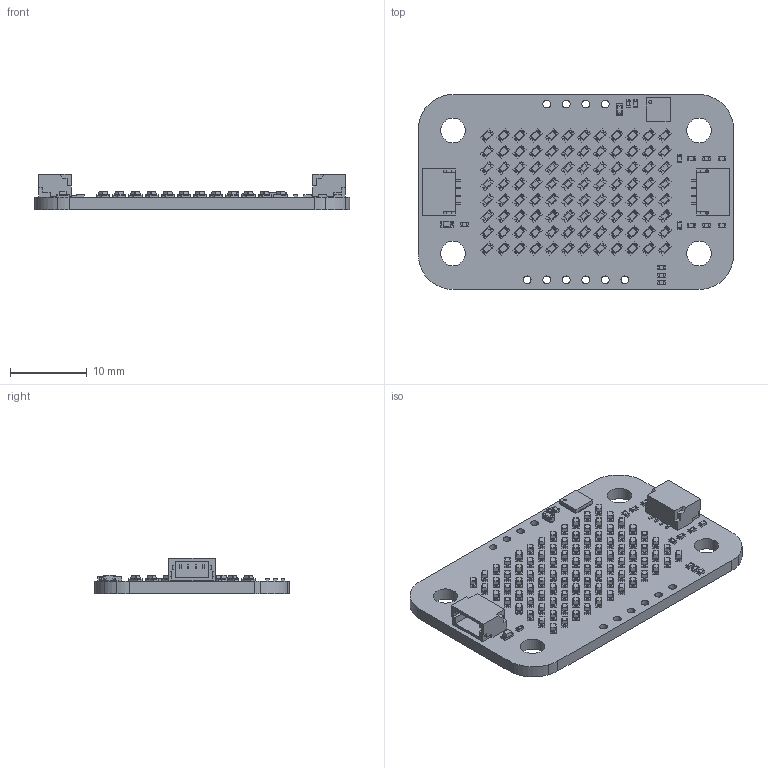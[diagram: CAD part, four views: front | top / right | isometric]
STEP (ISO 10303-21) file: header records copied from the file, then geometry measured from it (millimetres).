
FILE_DESCRIPTION(('Open CASCADE Model'),'2;1');
FILE_NAME('Open CASCADE Shape Model','2026-03-23T10:37:06',('Author'),( 'Open CASCADE'),'Open CASCADE STEP processor 7.5','Open CASCADE 7.5' ,'Unknown');
FILE_SCHEMA(('AUTOMOTIVE_DESIGN { 1 0 10303 214 1 1 1 1 }'));
Length unit declared in the file: millimetre
Products named in the file (129): PCB; Board; Open CASCADE STEP translator 7.5 1.1.1; 1; HSMx-190; 2; 3; 5; 4; 6; 7; 9; 11; 8; 10; 12; 13; 15; 17; 19; 14; 16; 18; 20; 21; 23; 25; 27; 29; 22; 24; 26; 28; 30; 31; 33; 35; 37; 39; 41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
Assembly tree (256 placements, depth 5):
  PCB
    Board
      Open CASCADE STEP translator 7.5 1.1.1
    1
      HSMx-190
    2
      HSMx-190
    3
      HSMx-190
    5
      HSMx-190
    4
      HSMx-190
    6
      HSMx-190
    7
      HSMx-190
    9
      HSMx-190
    11
      HSMx-190
    8
      HSMx-190
    10
      HSMx-190
    12
      HSMx-190
    13
      HSMx-190
    15
      HSMx-190
    17
      HSMx-190
    19
      HSMx-190
    14
      HSMx-190
    16
      HSMx-190
    18
      HSMx-190
    20
      HSMx-190
    21
      HSMx-190
    23
      HSMx-190
    25
      HSMx-190
    27
      HSMx-190
    29
      HSMx-190
    22
      HSMx-190
    24
      HSMx-190
    26
      HSMx-190
    28
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Bounding box: 41 x 25.36 x 4.58 mm (x, y, z)
Volume: 1742.4 mm3; surface area: 3196.5 mm2
Topology: 136 solids, 137 shells, 8066 faces, 21490 edges, 13401 vertices
Faces by surface type: plane 6057, cylinder 1201, sphere 404, torus 388, bspline 16
Full cylindrical faces by diameter (mm): 0.07 x97, 0.388 x1, 1 x10, 3.2 x4
Entity records: 15065 total; most frequent: CARTESIAN_POINT 2545, DIRECTION 2283, ORIENTED_EDGE 1787, EDGE_CURVE 894, AXIS2_PLACEMENT_3D 813, LINE 657, VECTOR 657, VERTEX_POINT 551
